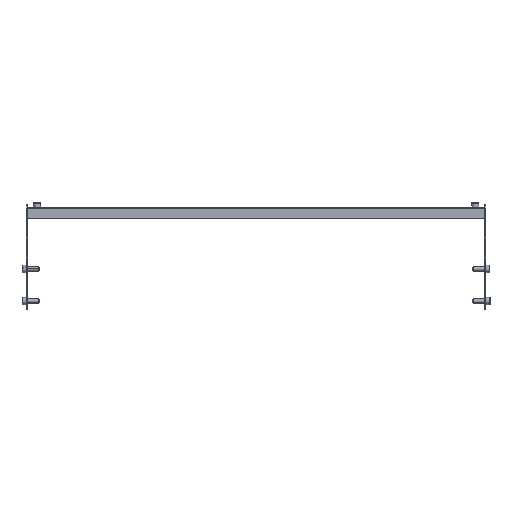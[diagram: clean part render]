
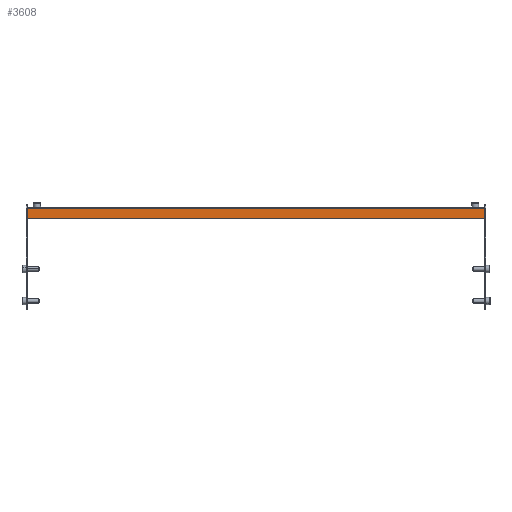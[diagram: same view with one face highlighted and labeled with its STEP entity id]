
A CAD part, front view. The second image highlights one B-rep face of the part: STEP entity #3608.
In plain terms, the highlighted planar face has unit normal (0, -1, 0) as drawn and (1, 0, 0) by its records, which use the part's own axes.
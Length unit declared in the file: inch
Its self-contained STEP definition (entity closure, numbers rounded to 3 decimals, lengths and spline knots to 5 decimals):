
#23 = EDGE_CURVE ( 'NONE', #3833, #5438, #7738, .T. ) ;
#187 = VECTOR ( 'NONE', #4826, 39.37008 ) ;
#813 = CARTESIAN_POINT ( 'NONE',  ( 0.78127, 0.29528, -12.5 ) ) ;
#1058 = EDGE_LOOP ( 'NONE', ( #3448, #7810, #5197, #2662 ) ) ;
#1100 = DIRECTION ( 'NONE',  ( 0., 1., 0. ) ) ;
#1131 = CARTESIAN_POINT ( 'NONE',  ( 0.78127, -0.26528, -12.5 ) ) ;
#1379 = DIRECTION ( 'NONE',  ( -1., 0., 0. ) ) ;
#1474 = VERTEX_POINT ( 'NONE', #5661 ) ;
#1539 = CARTESIAN_POINT ( 'NONE',  ( 0.78127, -0.26528, 12.5 ) ) ;
#2574 = VECTOR ( 'NONE', #1100, 39.37008 ) ;
#2662 = ORIENTED_EDGE ( 'NONE', *, *, #7026, .T. ) ;
#3004 = LINE ( 'NONE', #813, #187 ) ;
#3055 = EDGE_CURVE ( 'NONE', #3833, #5902, #6887, .T. ) ;
#3448 = ORIENTED_EDGE ( 'NONE', *, *, #23, .F. ) ;
#3608 = ADVANCED_FACE ( 'NONE', ( #5680 ), #4002, .F. ) ;
#3833 = VERTEX_POINT ( 'NONE', #5791 ) ;
#4002 = PLANE ( 'NONE',  #7907 ) ;
#4065 = EDGE_CURVE ( 'NONE', #5902, #1474, #3004, .T. ) ;
#4206 = VECTOR ( 'NONE', #5960, 39.37008 ) ;
#4251 = LINE ( 'NONE', #6623, #5947 ) ;
#4615 = CARTESIAN_POINT ( 'NONE',  ( 0.78127, 0.29528, 12.5 ) ) ;
#4783 = DIRECTION ( 'NONE',  ( 0., 0., 1. ) ) ;
#4826 = DIRECTION ( 'NONE',  ( 0., 1., 0. ) ) ;
#4848 = CARTESIAN_POINT ( 'NONE',  ( 0.78127, 0.26528, 12.5 ) ) ;
#5197 = ORIENTED_EDGE ( 'NONE', *, *, #4065, .T. ) ;
#5438 = VERTEX_POINT ( 'NONE', #4848 ) ;
#5633 = CARTESIAN_POINT ( 'NONE',  ( 0.78127, 0.29528, 12.5 ) ) ;
#5661 = CARTESIAN_POINT ( 'NONE',  ( 0.78127, 0.26528, -12.5 ) ) ;
#5680 = FACE_OUTER_BOUND ( 'NONE', #1058, .T. ) ;
#5791 = CARTESIAN_POINT ( 'NONE',  ( 0.78127, -0.26528, 12.5 ) ) ;
#5902 = VERTEX_POINT ( 'NONE', #1131 ) ;
#5947 = VECTOR ( 'NONE', #4783, 39.37008 ) ;
#5960 = DIRECTION ( 'NONE',  ( 0., 0., -1. ) ) ;
#6623 = CARTESIAN_POINT ( 'NONE',  ( 0.78127, 0.26528, 12.5 ) ) ;
#6887 = LINE ( 'NONE', #1539, #4206 ) ;
#7026 = EDGE_CURVE ( 'NONE', #1474, #5438, #4251, .T. ) ;
#7107 = DIRECTION ( 'NONE',  ( 0., 0., 1. ) ) ;
#7738 = LINE ( 'NONE', #5633, #2574 ) ;
#7810 = ORIENTED_EDGE ( 'NONE', *, *, #3055, .T. ) ;
#7907 = AXIS2_PLACEMENT_3D ( 'NONE', #4615, #1379, #7107 ) ;
